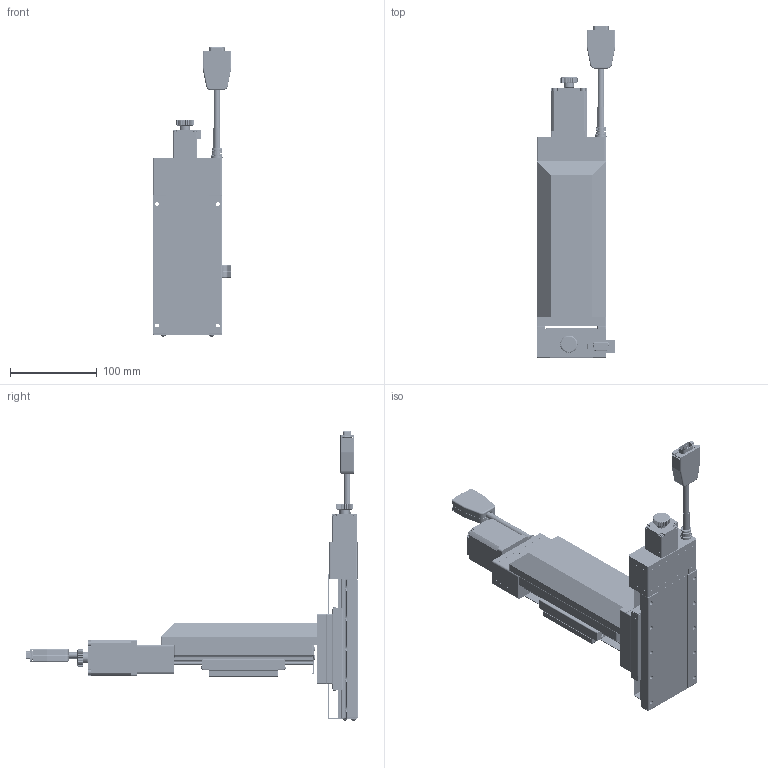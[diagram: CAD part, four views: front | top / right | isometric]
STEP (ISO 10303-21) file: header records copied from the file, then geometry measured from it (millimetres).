
FILE_DESCRIPTION (( 'STEP AP203' ), '1' );
FILE_NAME ('CXZC8050-S2?N.STEP', '2023-10-03T00:22:52', ( '' ), ( '' ), 'SwSTEP 2.0', 'SolidWorks 2019', '' );
FILE_SCHEMA (( 'CONFIG_CONTROL_DESIGN' ));
Products named in the file (16): SC04B016-7^CZLC8050-S2?N(2023新版)_defeature_GMT; CZLC8050-S2?N(2023新版)_defeature; SC04B016-13^CZLC8050-S2?N(2023新版)_defeature_GMT; CXC8050-S2?N(2023新版)-1^CZLC8050-S2?N(2023新版)_defeature_GMT; SC04B016-8^CZLC8050-S2?N(2023新版)_defeature_GMT; CXZC8050-S2?N; Group1^CZLC8050-S2?N(2023新版)_defeature_GMT; SC04B016-14^CZLC8050-S2?N(2023新版)_defeature_GMT; Group2^CZLC8050-S2?N(2023新版)_defeature_GMT; SC04B016-10^CZLC8050-S2?N(2023新版)_defeature_GMT; SC04B016-12^CZLC8050-S2?N(2023新版)_defeature_GMT; Group3^CXC8050-S2?N-1_GMT; SC04B016-11^CZLC8050-S2?N(2023新版)_defeature_GMT; SC04B016-9^CZLC8050-S2?N(2023新版)_defeature_GMT; CXN80-1_GMT; Group4^CXC8050-S2?N-1_GMT
Assembly tree (15 placements, depth 3):
  CXZC8050-S2?N
    Group3^CXC8050-S2?N-1_GMT
    Group4^CXC8050-S2?N-1_GMT
    CXN80-1_GMT
    CZLC8050-S2?N(2023新版)_defeature
      Group1^CZLC8050-S2?N(2023新版)_defeature_GMT
      Group2^CZLC8050-S2?N(2023新版)_defeature_GMT
      SC04B016-7^CZLC8050-S2?N(2023新版)_defeature_GMT
      SC04B016-12^CZLC8050-S2?N(2023新版)_defeature_GMT
      SC04B016-10^CZLC8050-S2?N(2023新版)_defeature_GMT
      SC04B016-9^CZLC8050-S2?N(2023新版)_defeature_GMT
      SC04B016-13^CZLC8050-S2?N(2023新版)_defeature_GMT
      CXC8050-S2?N(2023新版)-1^CZLC8050-S2?N(2023新版)_defeature_GMT
      SC04B016-8^CZLC8050-S2?N(2023新版)_defeature_GMT
      SC04B016-11^CZLC8050-S2?N(2023新版)_defeature_GMT
      SC04B016-14^CZLC8050-S2?N(2023新版)_defeature_GMT
Bounding box: 90.5 x 382.6 x 333.25 mm (x, y, z)
Volume: 147053.3 mm3; surface area: 350802.3 mm2
Topology: 50 solids, 60 shells, 8383 faces, 21562 edges, 13304 vertices
Faces by surface type: plane 3420, cylinder 2471, torus 892, cone 690, bspline 562, sphere 348
Entity records: 280832 total; most frequent: CARTESIAN_POINT 79143, ORIENTED_EDGE 42446, DIRECTION 41960, EDGE_CURVE 21223, AXIS2_PLACEMENT_3D 15938, VERTEX_POINT 13253, VECTOR 10084, LINE 10084
